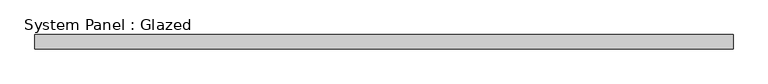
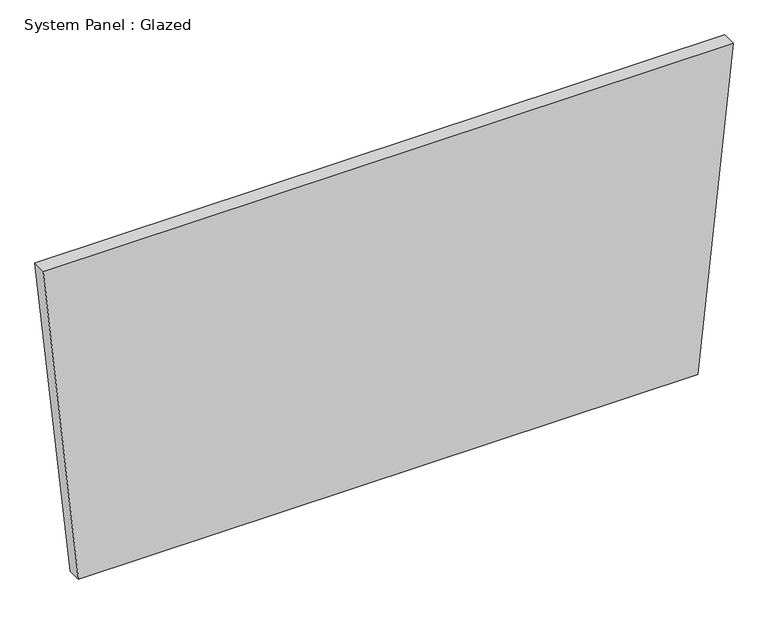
"""IFC4 building model written with IfcOpenShell, lengths in millimetres: plate geometry, System Panel : Glazed."""

from ifc_helpers import new_model, si_unit, frame, origin, place, context, project, spatial, polyline, outline, extrude, source, transform, mapped, element, save


def system_panel_glazed_fface929(model_context):
    return source(origin(), model_context, "Body", "SweptSolid", [
        extrude(outline(polyline([(0.0, -555.575534), (0.0, 555.575534), (606.3295224, 618.6363794), (606.3295224, -618.6363794), (0.0, -555.575534)])), frame((0.0, -44.45, 0.0), z_axis=(0.0, 1.0, 0.0), x_axis=(0.0, 0.0, 1.0)), (0.0, 0.0, 1.0), 25.4),
    ])


if __name__ == "__main__":
    model = new_model("IFC4")
    model_context = context("Model", 3, world=origin())
    ifc_project = project(units=[si_unit("LENGTHUNIT", "METRE", prefix="MILLI")], contexts=[model_context])
    site = spatial("IfcSite", under=ifc_project)
    building = spatial("IfcBuilding", under=site)
    placement = place(None, origin())
    system_panel_glazed_shape = system_panel_glazed_fface929(model_context)
    element("IfcPlate", 1, ObjectType="System Panel : Glazed", at=placement, inside=building, context=model_context, shape_type="MappedRepresentation", body=[
        mapped(system_panel_glazed_shape, transform((0.0, 0.0, 0.0), x_axis=(1.0, 0.0, 0.0), y_axis=(0.0, 1.0, 0.0), z_axis=(0.0, 0.0, 1.0))),
    ])
    save(model, "model.ifc")
